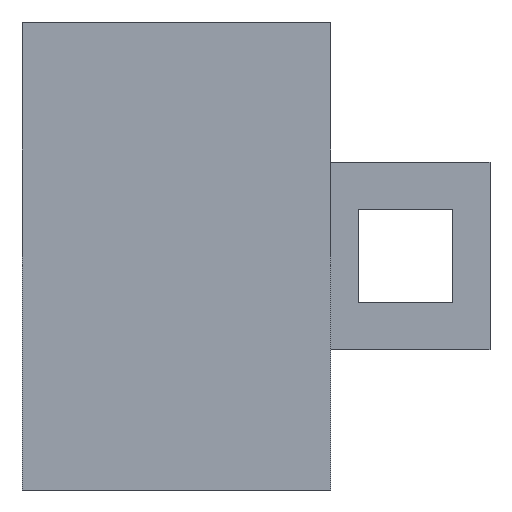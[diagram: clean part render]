
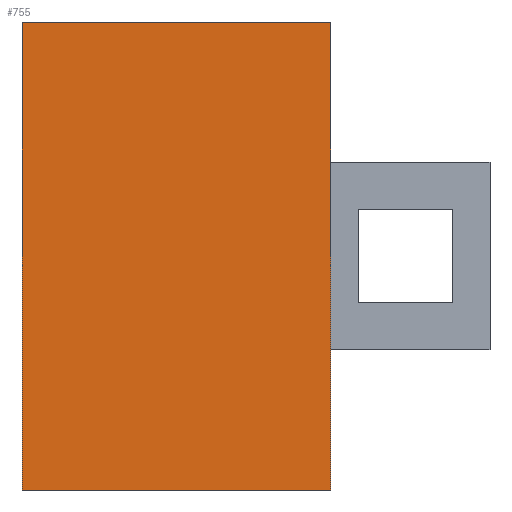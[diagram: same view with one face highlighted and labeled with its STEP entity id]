
A CAD part, front view. The second image highlights one B-rep face of the part: STEP entity #755.
In plain terms, the highlighted planar face has unit normal (0, -1, 0).
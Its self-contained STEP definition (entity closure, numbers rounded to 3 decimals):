
#60 = DIRECTION ( 'NONE',  ( 0., 1., 0. ) ) ;
#89 = ORIENTED_EDGE ( 'NONE', *, *, #1256, .F. ) ;
#131 = VECTOR ( 'NONE', #1052, 1000. ) ;
#198 = VERTEX_POINT ( 'NONE', #374 ) ;
#203 = VERTEX_POINT ( 'NONE', #991 ) ;
#210 = DIRECTION ( 'NONE',  ( 0., 0., -1. ) ) ;
#238 = VECTOR ( 'NONE', #1253, 1000. ) ;
#259 = DIRECTION ( 'NONE',  ( 1., 0., 0. ) ) ;
#296 = CARTESIAN_POINT ( 'NONE',  ( -4., -2.25, 12.5 ) ) ;
#349 = CARTESIAN_POINT ( 'NONE',  ( -4., -2.25, -12.5 ) ) ;
#374 = CARTESIAN_POINT ( 'NONE',  ( -4., -2.25, 12.5 ) ) ;
#387 = VERTEX_POINT ( 'NONE', #349 ) ;
#414 = LINE ( 'NONE', #1138, #131 ) ;
#433 = DIRECTION ( 'NONE',  ( 0., 0., -1. ) ) ;
#464 = PLANE ( 'NONE',  #745 ) ;
#487 = ORIENTED_EDGE ( 'NONE', *, *, #1129, .T. ) ;
#499 = ORIENTED_EDGE ( 'NONE', *, *, #654, .F. ) ;
#579 = FACE_OUTER_BOUND ( 'NONE', #1230, .T. ) ;
#588 = VECTOR ( 'NONE', #210, 1000. ) ;
#625 = LINE ( 'NONE', #296, #588 ) ;
#654 = EDGE_CURVE ( 'NONE', #701, #203, #743, .T. ) ;
#701 = VERTEX_POINT ( 'NONE', #1064 ) ;
#743 = LINE ( 'NONE', #1157, #1260 ) ;
#745 = AXIS2_PLACEMENT_3D ( 'NONE', #1178, #60, #259 ) ;
#755 = ADVANCED_FACE ( 'NONE', ( #579 ), #464, .F. ) ;
#909 = ORIENTED_EDGE ( 'NONE', *, *, #1200, .T. ) ;
#991 = CARTESIAN_POINT ( 'NONE',  ( 12.5, -2.25, -12.5 ) ) ;
#1039 = CARTESIAN_POINT ( 'NONE',  ( 0., -2.25, -12.5 ) ) ;
#1052 = DIRECTION ( 'NONE',  ( -1., 0., 0. ) ) ;
#1064 = CARTESIAN_POINT ( 'NONE',  ( 12.5, -2.25, 12.5 ) ) ;
#1123 = LINE ( 'NONE', #1039, #238 ) ;
#1129 = EDGE_CURVE ( 'NONE', #198, #387, #625, .T. ) ;
#1138 = CARTESIAN_POINT ( 'NONE',  ( 0., -2.25, 12.5 ) ) ;
#1157 = CARTESIAN_POINT ( 'NONE',  ( 12.5, -2.25, 12.353 ) ) ;
#1178 = CARTESIAN_POINT ( 'NONE',  ( 0., -2.25, 0. ) ) ;
#1200 = EDGE_CURVE ( 'NONE', #701, #198, #414, .T. ) ;
#1230 = EDGE_LOOP ( 'NONE', ( #909, #487, #89, #499 ) ) ;
#1253 = DIRECTION ( 'NONE',  ( -1., 0., 0. ) ) ;
#1256 = EDGE_CURVE ( 'NONE', #203, #387, #1123, .T. ) ;
#1260 = VECTOR ( 'NONE', #433, 1000. ) ;
